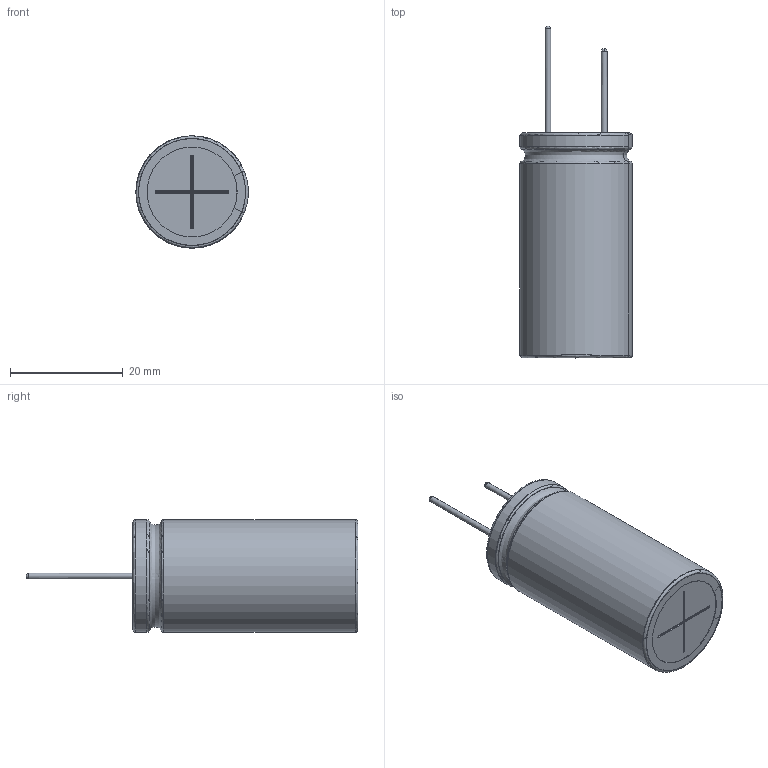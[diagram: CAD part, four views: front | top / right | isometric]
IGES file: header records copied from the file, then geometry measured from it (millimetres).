
Start section: JAMA-IS VERSION  1.0
Bounding box: 19.97 x 59 x 20 mm (x, y, z)
Surface area: 8715.5 mm2 (no closed solid volume)
Topology: 0 solids, 0 shells, 100 faces, 1336 edges, 1316 vertices
Faces by surface type: bspline 100
